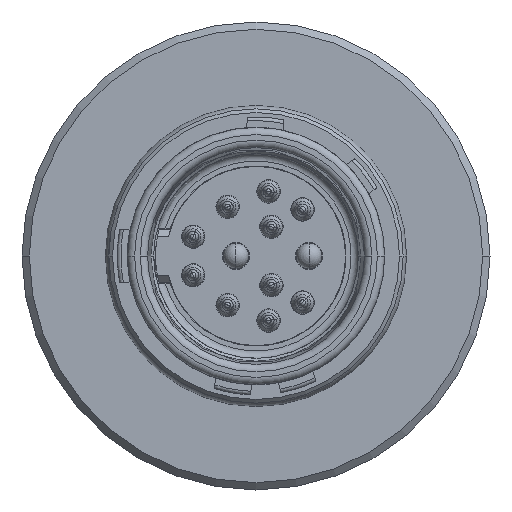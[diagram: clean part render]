
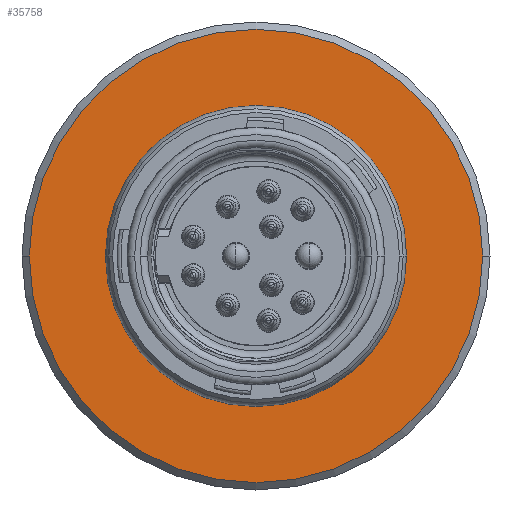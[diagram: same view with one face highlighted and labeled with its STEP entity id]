
A CAD part, left-side view. The second image highlights one B-rep face of the part: STEP entity #35758.
In plain terms, the highlighted planar face has unit normal (-1, 0, 0).
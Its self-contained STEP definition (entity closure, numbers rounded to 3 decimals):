
#11523=CARTESIAN_POINT('',(-5.7,0.,0.));
#11524=DIRECTION('',(-1.,0.,0.));
#11525=DIRECTION('',(0.,1.,0.));
#11526=AXIS2_PLACEMENT_3D('',#11523,#11524,#11525);
#11536=CARTESIAN_POINT('',(-5.7,0.,0.));
#11537=DIRECTION('',(1.,0.,0.));
#11538=DIRECTION('',(0.,1.,0.));
#11539=AXIS2_PLACEMENT_3D('',#11536,#11537,#11538);
#11541=CARTESIAN_POINT('',(-5.7,0.,0.));
#11542=DIRECTION('',(-1.,0.,0.));
#11543=DIRECTION('',(0.,1.,0.));
#11544=AXIS2_PLACEMENT_3D('',#11541,#11542,#11543);
#11550=CARTESIAN_POINT('',(-5.7,0.,0.));
#11551=DIRECTION('',(1.,0.,0.));
#11552=DIRECTION('',(0.,1.,0.));
#11553=AXIS2_PLACEMENT_3D('',#11550,#11551,#11552);
#21054=CARTESIAN_POINT('',(-5.7,6.2,0.));
#21055=VERTEX_POINT('',#21054);
#21056=CARTESIAN_POINT('',(-5.7,-6.2,0.));
#21057=VERTEX_POINT('',#21056);
#21144=CARTESIAN_POINT('',(-5.7,3.941,0.));
#21146=VERTEX_POINT('',#21144);
#21150=CARTESIAN_POINT('',(-5.7,-3.941,0.));
#21152=VERTEX_POINT('',#21150);
#35743=CARTESIAN_POINT('',(-5.7,0.,0.));
#35744=DIRECTION('',(-1.,0.,0.));
#35745=DIRECTION('',(0.,-1.,0.));
#35746=AXIS2_PLACEMENT_3D('',#35743,#35744,#35745);
#35747=PLANE('',#35746);
#35748=ORIENTED_EDGE('',*,*,#35708,.F.);
#35749=ORIENTED_EDGE('',*,*,#35731,.T.);
#35750=EDGE_LOOP('',(#35748,#35749));
#35751=FACE_OUTER_BOUND('',#35750,.F.);
#35753=ORIENTED_EDGE('',*,*,#35752,.T.);
#35755=ORIENTED_EDGE('',*,*,#35754,.F.);
#35756=EDGE_LOOP('',(#35753,#35755));
#35757=FACE_BOUND('',#35756,.F.);
#11527=CIRCLE('',#11526,6.2);
#11540=CIRCLE('',#11539,6.2);
#11545=CIRCLE('',#11544,3.941);
#11554=CIRCLE('',#11553,3.941);
#35708=EDGE_CURVE('',#21055,#21057,#11527,.T.);
#35731=EDGE_CURVE('',#21055,#21057,#11540,.T.);
#35752=EDGE_CURVE('',#21146,#21152,#11545,.T.);
#35754=EDGE_CURVE('',#21146,#21152,#11554,.T.);
#35758=ADVANCED_FACE('',(#35751,#35757),#35747,.T.);
